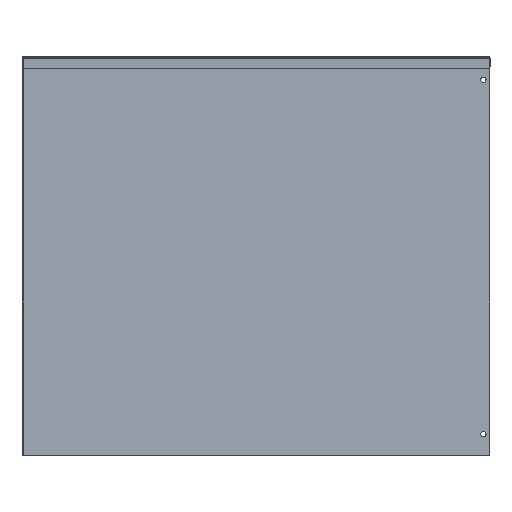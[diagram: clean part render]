
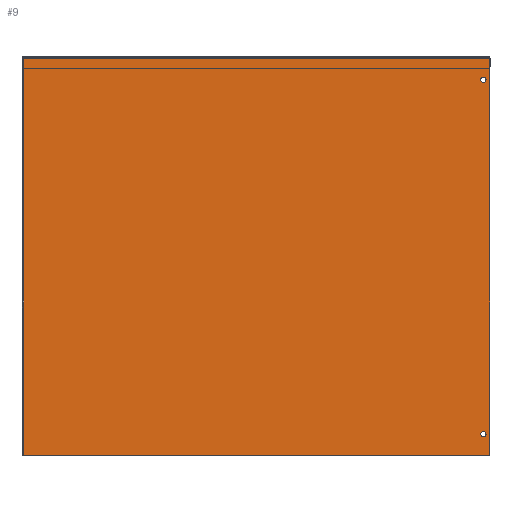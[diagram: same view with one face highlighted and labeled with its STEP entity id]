
A CAD part, left-side view. The second image highlights one B-rep face of the part: STEP entity #9.
In plain terms, the highlighted planar face has unit normal (-1, 0, 0) as drawn and (0, 0, 1) by its records, which use the part's own axes.
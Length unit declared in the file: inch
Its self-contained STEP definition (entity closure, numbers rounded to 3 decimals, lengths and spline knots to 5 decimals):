
#9 = ADVANCED_FACE ( 'NONE', ( #1207, #872, #2002 ), #929, .F. ) ;
#15 = DIRECTION ( 'NONE',  ( 0., 0., 1. ) ) ;
#128 = VERTEX_POINT ( 'NONE', #380 ) ;
#171 = VERTEX_POINT ( 'NONE', #391 ) ;
#207 = EDGE_LOOP ( 'NONE', ( #1849, #2062, #1979, #1962 ) ) ;
#208 = CARTESIAN_POINT ( 'NONE',  ( 41.27652, 20.94457, 0.038 ) ) ;
#210 = EDGE_LOOP ( 'NONE', ( #1794, #1764 ) ) ;
#234 = VERTEX_POINT ( 'NONE', #452 ) ;
#255 = VERTEX_POINT ( 'NONE', #588 ) ;
#286 = VERTEX_POINT ( 'NONE', #566 ) ;
#308 = AXIS2_PLACEMENT_3D ( 'NONE', #1673, #367, #1115 ) ;
#367 = DIRECTION ( 'NONE',  ( 0., 0., -1. ) ) ;
#380 = CARTESIAN_POINT ( 'NONE',  ( 19.74955, 19.94457, 0.038 ) ) ;
#391 = CARTESIAN_POINT ( 'NONE',  ( 19.49955, 3.28832, 0.038 ) ) ;
#395 = VERTEX_POINT ( 'NONE', #957 ) ;
#452 = CARTESIAN_POINT ( 'NONE',  ( 19.31205, 2.28832, 0.038 ) ) ;
#473 = CIRCLE ( 'NONE', #2091, 0.125 ) ;
#491 = EDGE_CURVE ( 'NONE', #171, #255, #1635, .T. ) ;
#526 = EDGE_CURVE ( 'NONE', #395, #128, #1848, .T. ) ;
#566 = CARTESIAN_POINT ( 'NONE',  ( 19.31205, 20.94457, 0.038 ) ) ;
#588 = CARTESIAN_POINT ( 'NONE',  ( 19.74955, 3.28832, 0.038 ) ) ;
#600 = DIRECTION ( 'NONE',  ( 1., 0., 0. ) ) ;
#623 = VECTOR ( 'NONE', #1803, 39.37008 ) ;
#660 = CARTESIAN_POINT ( 'NONE',  ( 19.31205, 2.28832, 0.038 ) ) ;
#663 = DIRECTION ( 'NONE',  ( 0., -1., 0. ) ) ;
#668 = DIRECTION ( 'NONE',  ( 0., -1., 0. ) ) ;
#671 = CARTESIAN_POINT ( 'NONE',  ( 41.22707, 11.61644, 0.038 ) ) ;
#690 = VECTOR ( 'NONE', #668, 39.37008 ) ;
#723 = CARTESIAN_POINT ( 'NONE',  ( 19.62455, 3.28832, 0.038 ) ) ;
#725 = DIRECTION ( 'NONE',  ( 0., 0., 1. ) ) ;
#732 = DIRECTION ( 'NONE',  ( 1., 0., 0. ) ) ;
#770 = CARTESIAN_POINT ( 'NONE',  ( 19.62455, 19.94457, 0.038 ) ) ;
#773 = DIRECTION ( 'NONE',  ( 0., 0., 1. ) ) ;
#775 = DIRECTION ( 'NONE',  ( 1., 0., 0. ) ) ;
#801 = DIRECTION ( 'NONE',  ( 0., 0., 1. ) ) ;
#802 = CARTESIAN_POINT ( 'NONE',  ( 19.62455, 3.28832, 0.038 ) ) ;
#872 = FACE_BOUND ( 'NONE', #210, .T. ) ;
#914 = EDGE_CURVE ( 'NONE', #234, #1781, #1317, .T. ) ;
#919 = EDGE_CURVE ( 'NONE', #2084, #286, #1126, .T. ) ;
#923 = EDGE_CURVE ( 'NONE', #2084, #1781, #1254, .T. ) ;
#929 = PLANE ( 'NONE',  #308 ) ;
#950 = EDGE_CURVE ( 'NONE', #286, #234, #1987, .T. ) ;
#957 = CARTESIAN_POINT ( 'NONE',  ( 19.49955, 19.94457, 0.038 ) ) ;
#981 = DIRECTION ( 'NONE',  ( 1., 0., 0. ) ) ;
#1007 = EDGE_CURVE ( 'NONE', #255, #171, #473, .T. ) ;
#1043 = EDGE_CURVE ( 'NONE', #128, #395, #1969, .T. ) ;
#1115 = DIRECTION ( 'NONE',  ( -1., 0., 0. ) ) ;
#1126 = LINE ( 'NONE', #208, #623 ) ;
#1207 = FACE_OUTER_BOUND ( 'NONE', #207, .T. ) ;
#1232 = DIRECTION ( 'NONE',  ( 1., 0., 0. ) ) ;
#1244 = CARTESIAN_POINT ( 'NONE',  ( 19.62455, 19.94457, 0.038 ) ) ;
#1254 = LINE ( 'NONE', #671, #690 ) ;
#1317 = LINE ( 'NONE', #1786, #1949 ) ;
#1536 = CARTESIAN_POINT ( 'NONE',  ( 41.22707, 2.28832, 0.038 ) ) ;
#1561 = CARTESIAN_POINT ( 'NONE',  ( 41.22707, 20.94457, 0.038 ) ) ;
#1617 = AXIS2_PLACEMENT_3D ( 'NONE', #802, #801, #981 ) ;
#1635 = CIRCLE ( 'NONE', #1617, 0.125 ) ;
#1673 = CARTESIAN_POINT ( 'NONE',  ( 50.60465, 11.61644, 0.038 ) ) ;
#1731 = ORIENTED_EDGE ( 'NONE', *, *, #1043, .F. ) ;
#1751 = ORIENTED_EDGE ( 'NONE', *, *, #526, .F. ) ;
#1764 = ORIENTED_EDGE ( 'NONE', *, *, #1007, .F. ) ;
#1781 = VERTEX_POINT ( 'NONE', #1536 ) ;
#1786 = CARTESIAN_POINT ( 'NONE',  ( 41.27652, 2.28832, 0.038 ) ) ;
#1794 = ORIENTED_EDGE ( 'NONE', *, *, #491, .F. ) ;
#1803 = DIRECTION ( 'NONE',  ( -1., 0., 0. ) ) ;
#1848 = CIRCLE ( 'NONE', #1870, 0.125 ) ;
#1849 = ORIENTED_EDGE ( 'NONE', *, *, #923, .F. ) ;
#1870 = AXIS2_PLACEMENT_3D ( 'NONE', #1244, #15, #1232 ) ;
#1896 = VECTOR ( 'NONE', #663, 39.37008 ) ;
#1949 = VECTOR ( 'NONE', #600, 39.37008 ) ;
#1962 = ORIENTED_EDGE ( 'NONE', *, *, #914, .T. ) ;
#1969 = CIRCLE ( 'NONE', #2001, 0.125 ) ;
#1979 = ORIENTED_EDGE ( 'NONE', *, *, #950, .T. ) ;
#1987 = LINE ( 'NONE', #660, #1896 ) ;
#2001 = AXIS2_PLACEMENT_3D ( 'NONE', #770, #773, #775 ) ;
#2002 = FACE_BOUND ( 'NONE', #2086, .T. ) ;
#2062 = ORIENTED_EDGE ( 'NONE', *, *, #919, .T. ) ;
#2084 = VERTEX_POINT ( 'NONE', #1561 ) ;
#2086 = EDGE_LOOP ( 'NONE', ( #1751, #1731 ) ) ;
#2091 = AXIS2_PLACEMENT_3D ( 'NONE', #723, #725, #732 ) ;
